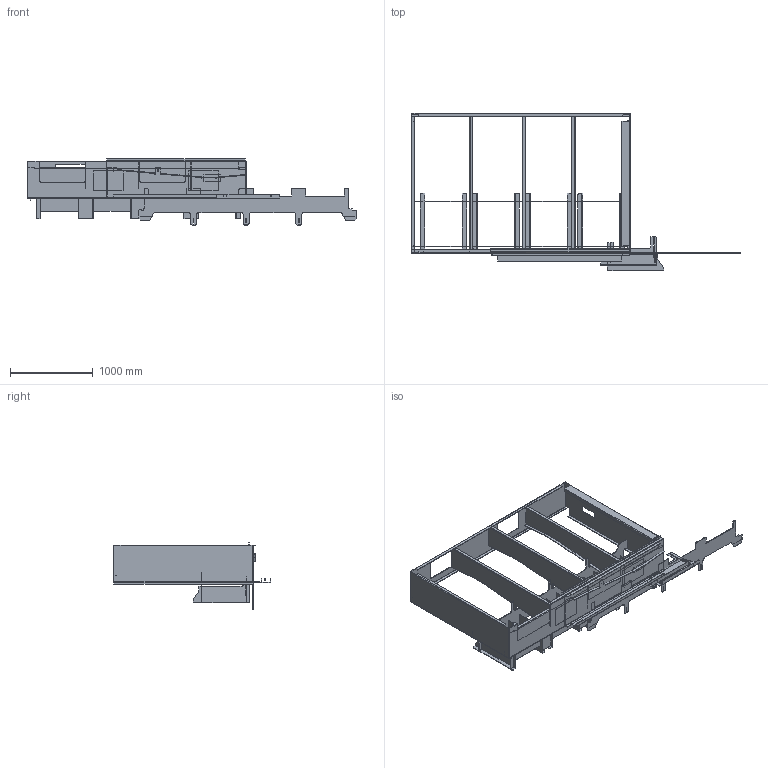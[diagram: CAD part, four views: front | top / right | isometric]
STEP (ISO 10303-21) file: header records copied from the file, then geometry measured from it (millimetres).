
FILE_DESCRIPTION( ( 'Unterbau bearbeitet' ), '1' );
FILE_NAME( 'D:/FBratschi/Allgemein/fem/Forum/rahmen.stp', '22.04.2005/15:02', ( 'brf' ), ( 'Mikron' ), 'XStep 1.0', 'SE16', ' ' );
FILE_SCHEMA( ( 'automotive_design' ) );
Length unit declared in the file: millimetre
Products named in the file (18): 1008292 000 01; Assem1; 1008290 000 01; 1008305 000 01; 1008294 000 01; 1008306 000 01; 1008271 000 01; 1008304 000 01; 1008301 000 01; 1008303 000 01; 1008293 000 01; 1008299 000 01
Bounding box: 3986.1 x 1902.21 x 799.5 mm (x, y, z)
Volume: 101169807.8 mm3; surface area: 34696435 mm2
Topology: 34 solids, 34 shells, 1831 faces, 5197 edges, 3434 vertices
Faces by surface type: plane 1464, cylinder 338, bspline 29
Entity records: 33508 total; most frequent: CARTESIAN_POINT 5301, ORIENTED_EDGE 4852, DIRECTION 4460, EDGE_CURVE 2426, LINE 2070, VECTOR 2070, VERTEX_POINT 1604, AXIS2_PLACEMENT_3D 1195
